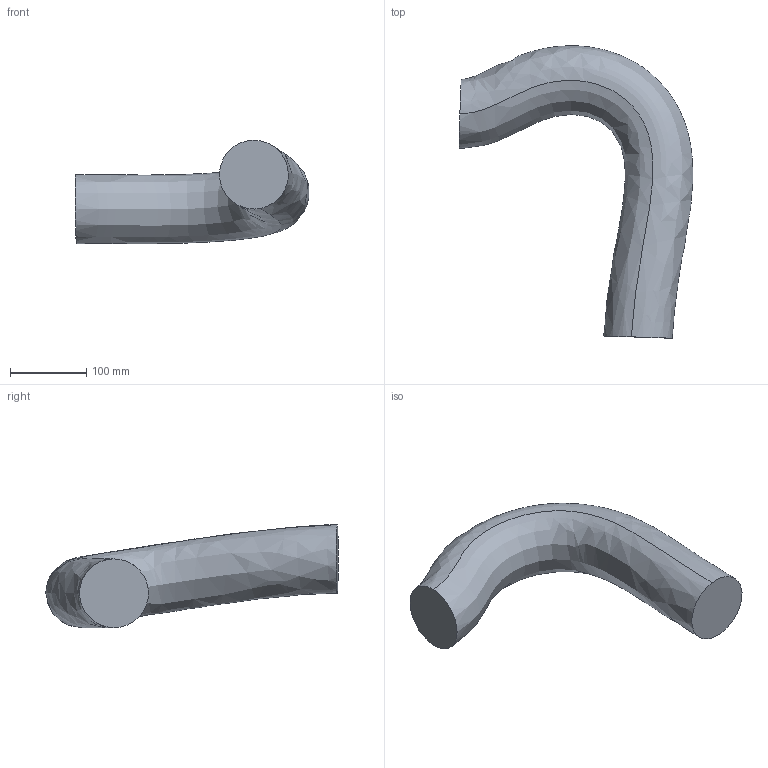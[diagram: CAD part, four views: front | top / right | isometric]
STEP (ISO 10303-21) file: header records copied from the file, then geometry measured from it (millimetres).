
FILE_DESCRIPTION (( 'STEP AP214' ), '1' );
FILE_NAME ('IRB5720-LID_155kg-260_OmniCore_rev00_LINK05_CABLE.step', '2025-07-08T11:05:58', ( '' ), ( '' ), 'SwSTEP 2.0', 'SolidWorks 2024', '' );
FILE_SCHEMA (( 'AUTOMOTIVE_DESIGN' ));
Length unit declared in the file: millimetre
Products named in the file (1): IRB5720-LID_155kg-260_OmniCore_rev00_LINK05_CABLE
Bounding box: 306.27 x 383.12 x 135.55 mm (x, y, z)
Volume: 3575135.2 mm3; surface area: 171631.2 mm2
Topology: 1 solids, 1 shells, 4 faces, 6 edges, 4 vertices
Faces by surface type: bspline 2, plane 2
Entity records: 1502 total; most frequent: CARTESIAN_POINT 1424, ORIENTED_EDGE 12, EDGE_CURVE 6, DIRECTION 6, B_SPLINE_CURVE_WITH_KNOTS 6, ADVANCED_FACE 4, VERTEX_POINT 4, FACE_OUTER_BOUND 4
